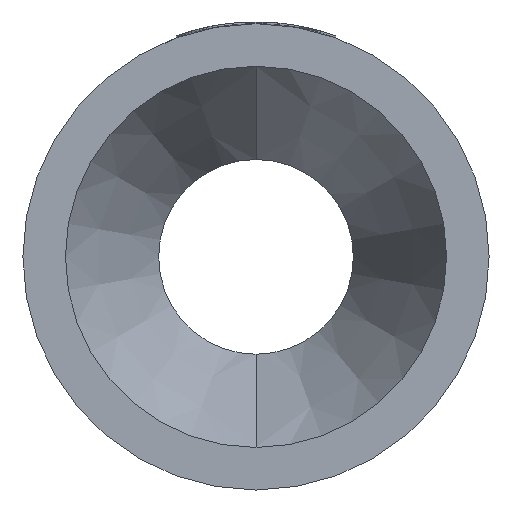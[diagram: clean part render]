
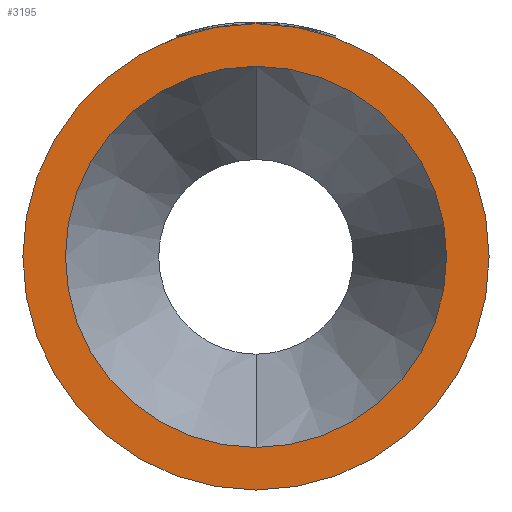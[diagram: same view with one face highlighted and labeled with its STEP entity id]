
A CAD part, left-side view. The second image highlights one B-rep face of the part: STEP entity #3195.
In plain terms, the highlighted planar face has unit normal (-1, 0, 0).
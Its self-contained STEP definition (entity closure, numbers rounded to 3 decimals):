
#31 = EDGE_CURVE ( 'NONE', #2181, #1228, #3004, .T. ) ;
#56 = EDGE_CURVE ( 'NONE', #3211, #1507, #2963, .T. ) ;
#60 = AXIS2_PLACEMENT_3D ( 'NONE', #3213, #3208, #3142 ) ;
#93 = AXIS2_PLACEMENT_3D ( 'NONE', #3241, #3330, #3273 ) ;
#336 = AXIS2_PLACEMENT_3D ( 'NONE', #555, #549, #546 ) ;
#430 = EDGE_CURVE ( 'NONE', #1507, #3211, #1000, .T. ) ;
#439 = CARTESIAN_POINT ( 'NONE',  ( 0., 0., -51.1 ) ) ;
#546 = DIRECTION ( 'NONE',  ( 0., 0., 1. ) ) ;
#549 = DIRECTION ( 'NONE',  ( -1., 0., 0. ) ) ;
#555 = CARTESIAN_POINT ( 'NONE',  ( 0., 0., 0. ) ) ;
#1000 = CIRCLE ( 'NONE', #336, 62.5 ) ;
#1047 = EDGE_CURVE ( 'NONE', #1228, #2181, #1415, .T. ) ;
#1195 = DIRECTION ( 'NONE',  ( 0., 0., 1. ) ) ;
#1207 = DIRECTION ( 'NONE',  ( -1., 0., 0. ) ) ;
#1219 = CARTESIAN_POINT ( 'NONE',  ( 0., 0., 0. ) ) ;
#1228 = VERTEX_POINT ( 'NONE', #439 ) ;
#1243 = FACE_OUTER_BOUND ( 'NONE', #3306, .T. ) ;
#1347 = FACE_BOUND ( 'NONE', #3286, .T. ) ;
#1415 = CIRCLE ( 'NONE', #3418, 51.1 ) ;
#1507 = VERTEX_POINT ( 'NONE', #1655 ) ;
#1642 = CARTESIAN_POINT ( 'NONE',  ( 0., 0., 51.1 ) ) ;
#1655 = CARTESIAN_POINT ( 'NONE',  ( 0., 0., 62.5 ) ) ;
#1817 = CARTESIAN_POINT ( 'NONE',  ( 0., 0., -62.5 ) ) ;
#1878 = ORIENTED_EDGE ( 'NONE', *, *, #31, .F. ) ;
#2130 = ORIENTED_EDGE ( 'NONE', *, *, #56, .T. ) ;
#2181 = VERTEX_POINT ( 'NONE', #1642 ) ;
#2340 = ORIENTED_EDGE ( 'NONE', *, *, #430, .T. ) ;
#2701 = DIRECTION ( 'NONE',  ( 0., 0., -1. ) ) ;
#2713 = DIRECTION ( 'NONE',  ( 1., 0., 0. ) ) ;
#2722 = CARTESIAN_POINT ( 'NONE',  ( 0., 51.1, 0. ) ) ;
#2854 = PLANE ( 'NONE',  #3075 ) ;
#2963 = CIRCLE ( 'NONE', #60, 62.5 ) ;
#3004 = CIRCLE ( 'NONE', #93, 51.1 ) ;
#3075 = AXIS2_PLACEMENT_3D ( 'NONE', #2722, #2713, #2701 ) ;
#3142 = DIRECTION ( 'NONE',  ( 0., 0., 1. ) ) ;
#3195 = ADVANCED_FACE ( 'NONE', ( #1347, #1243 ), #2854, .F. ) ;
#3208 = DIRECTION ( 'NONE',  ( -1., 0., 0. ) ) ;
#3211 = VERTEX_POINT ( 'NONE', #1817 ) ;
#3213 = CARTESIAN_POINT ( 'NONE',  ( 0., 0., 0. ) ) ;
#3241 = CARTESIAN_POINT ( 'NONE',  ( 0., 0., 0. ) ) ;
#3273 = DIRECTION ( 'NONE',  ( 0., 0., 1. ) ) ;
#3286 = EDGE_LOOP ( 'NONE', ( #1878, #3303 ) ) ;
#3303 = ORIENTED_EDGE ( 'NONE', *, *, #1047, .F. ) ;
#3306 = EDGE_LOOP ( 'NONE', ( #2340, #2130 ) ) ;
#3330 = DIRECTION ( 'NONE',  ( -1., 0., 0. ) ) ;
#3418 = AXIS2_PLACEMENT_3D ( 'NONE', #1219, #1207, #1195 ) ;
